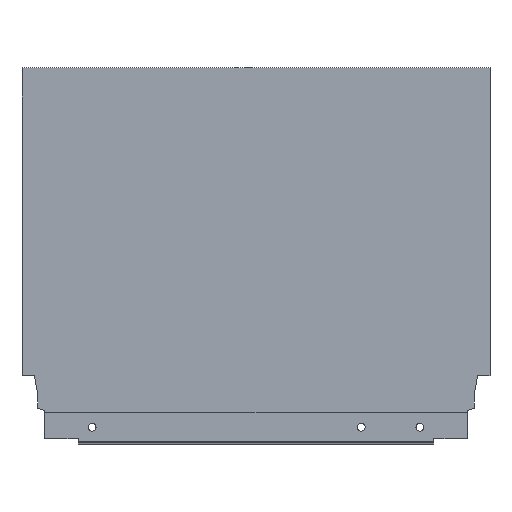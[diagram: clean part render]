
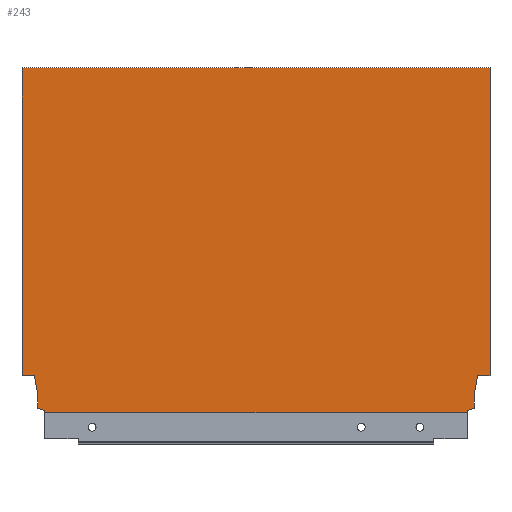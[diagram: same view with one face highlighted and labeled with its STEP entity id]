
A CAD part, top view. The second image highlights one B-rep face of the part: STEP entity #243.
In plain terms, the highlighted planar face has unit normal (0, 0, 1).
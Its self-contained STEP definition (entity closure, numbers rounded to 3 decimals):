
#37 = EDGE_CURVE ( 'NONE', #538, #545, #1068, .T. ) ;
#41 = EDGE_CURVE ( 'NONE', #542, #543, #1072, .T. ) ;
#75 = EDGE_CURVE ( 'NONE', #483, #510, #1017, .T. ) ;
#76 = EDGE_CURVE ( 'NONE', #591, #546, #1015, .T. ) ;
#77 = EDGE_CURVE ( 'NONE', #475, #546, #1012, .T. ) ;
#89 = EDGE_CURVE ( 'NONE', #529, #536, #986, .T. ) ;
#106 = EDGE_CURVE ( 'NONE', #510, #522, #957, .T. ) ;
#115 = EDGE_CURVE ( 'NONE', #554, #529, #939, .T. ) ;
#117 = AXIS2_PLACEMENT_3D ( 'NONE', #410, #409, #900 ) ;
#120 = EDGE_CURVE ( 'NONE', #522, #538, #933, .T. ) ;
#121 = EDGE_CURVE ( 'NONE', #542, #554, #931, .T. ) ;
#135 = EDGE_CURVE ( 'NONE', #545, #543, #914, .T. ) ;
#152 = EDGE_CURVE ( 'NONE', #495, #483, #1510, .T. ) ;
#173 = EDGE_CURVE ( 'NONE', #536, #475, #1494, .T. ) ;
#175 = EDGE_CURVE ( 'NONE', #591, #495, #1483, .T. ) ;
#243 = ADVANCED_FACE ( 'NONE', ( #1274 ), #412, .T. ) ;
#252 = CARTESIAN_POINT ( 'NONE',  ( 0., 21.2, 7.5 ) ) ;
#314 = DIRECTION ( 'NONE',  ( 1., 0., 0. ) ) ;
#320 = CARTESIAN_POINT ( 'NONE',  ( -267., 0., 7.5 ) ) ;
#321 = DIRECTION ( 'NONE',  ( -0.94, -0.342, 0. ) ) ;
#322 = CARTESIAN_POINT ( 'NONE',  ( -8.9, 2.64, 7.5 ) ) ;
#369 = CARTESIAN_POINT ( 'NONE',  ( -7.06, 21.2, 7.5 ) ) ;
#377 = CARTESIAN_POINT ( 'NONE',  ( -267., 196.7, 7.5 ) ) ;
#396 = DIRECTION ( 'NONE',  ( -0.174, -0.985, 0. ) ) ;
#409 = DIRECTION ( 'NONE',  ( 0., 0., 1. ) ) ;
#410 = CARTESIAN_POINT ( 'NONE',  ( -267., 0., 7.5 ) ) ;
#412 = PLANE ( 'NONE',  #117 ) ;
#417 = CARTESIAN_POINT ( 'NONE',  ( -7.06, 21.2, 7.5 ) ) ;
#475 = VERTEX_POINT ( 'NONE', #635 ) ;
#483 = VERTEX_POINT ( 'NONE', #252 ) ;
#495 = VERTEX_POINT ( 'NONE', #555 ) ;
#508 = CARTESIAN_POINT ( 'NONE',  ( 0., 21.2, 7.5 ) ) ;
#509 = DIRECTION ( 'NONE',  ( -1., 0., 0. ) ) ;
#510 = VERTEX_POINT ( 'NONE', #417 ) ;
#515 = CARTESIAN_POINT ( 'NONE',  ( -267., 0., 7.5 ) ) ;
#516 = DIRECTION ( 'NONE',  ( 0., -1., 0. ) ) ;
#521 = CARTESIAN_POINT ( 'NONE',  ( -272., 21.2, 7.5 ) ) ;
#522 = VERTEX_POINT ( 'NONE', #801 ) ;
#524 = DIRECTION ( 'NONE',  ( -1., 0., 0. ) ) ;
#529 = VERTEX_POINT ( 'NONE', #780 ) ;
#536 = VERTEX_POINT ( 'NONE', #799 ) ;
#538 = VERTEX_POINT ( 'NONE', #795 ) ;
#542 = VERTEX_POINT ( 'NONE', #781 ) ;
#543 = VERTEX_POINT ( 'NONE', #771 ) ;
#545 = VERTEX_POINT ( 'NONE', #770 ) ;
#546 = VERTEX_POINT ( 'NONE', #776 ) ;
#554 = VERTEX_POINT ( 'NONE', #790 ) ;
#555 = CARTESIAN_POINT ( 'NONE',  ( 0., 196.7, 7.5 ) ) ;
#559 = CARTESIAN_POINT ( 'NONE',  ( -258.1, 10.765, 7.5 ) ) ;
#563 = DIRECTION ( 'NONE',  ( 0., 1., 0. ) ) ;
#591 = VERTEX_POINT ( 'NONE', #377 ) ;
#599 = DIRECTION ( 'NONE',  ( 1., 0., 0. ) ) ;
#601 = CARTESIAN_POINT ( 'NONE',  ( -259.94, 21.2, 7.5 ) ) ;
#613 = DIRECTION ( 'NONE',  ( -0.174, 0.985, 0. ) ) ;
#615 = CARTESIAN_POINT ( 'NONE',  ( -258.1, 2.64, 7.5 ) ) ;
#616 = DIRECTION ( 'NONE',  ( -0.94, 0.342, 0. ) ) ;
#617 = DIRECTION ( 'NONE',  ( 0., -1., 0. ) ) ;
#618 = CARTESIAN_POINT ( 'NONE',  ( -13.004, 1.146, 7.5 ) ) ;
#622 = CARTESIAN_POINT ( 'NONE',  ( -267., 196.7, 7.5 ) ) ;
#635 = CARTESIAN_POINT ( 'NONE',  ( -259.94, 21.2, 7.5 ) ) ;
#710 = DIRECTION ( 'NONE',  ( 0., -1., 0. ) ) ;
#711 = CARTESIAN_POINT ( 'NONE',  ( 0., 0., 7.5 ) ) ;
#749 = DIRECTION ( 'NONE',  ( 0., 1., 0. ) ) ;
#750 = CARTESIAN_POINT ( 'NONE',  ( -253.996, 1.146, 7.5 ) ) ;
#751 = DIRECTION ( 'NONE',  ( 0., -1., 0. ) ) ;
#757 = CARTESIAN_POINT ( 'NONE',  ( -8.9, 10.765, 7.5 ) ) ;
#770 = CARTESIAN_POINT ( 'NONE',  ( -13.004, 1.146, 7.5 ) ) ;
#771 = CARTESIAN_POINT ( 'NONE',  ( -13.004, 0., 7.5 ) ) ;
#776 = CARTESIAN_POINT ( 'NONE',  ( -267., 21.2, 7.5 ) ) ;
#780 = CARTESIAN_POINT ( 'NONE',  ( -258.1, 2.64, 7.5 ) ) ;
#781 = CARTESIAN_POINT ( 'NONE',  ( -253.996, 0., 7.5 ) ) ;
#790 = CARTESIAN_POINT ( 'NONE',  ( -253.996, 1.146, 7.5 ) ) ;
#795 = CARTESIAN_POINT ( 'NONE',  ( -8.9, 2.64, 7.5 ) ) ;
#799 = CARTESIAN_POINT ( 'NONE',  ( -258.1, 10.765, 7.5 ) ) ;
#801 = CARTESIAN_POINT ( 'NONE',  ( -8.9, 10.765, 7.5 ) ) ;
#900 = DIRECTION ( 'NONE',  ( 1., 0., 0. ) ) ;
#913 = VECTOR ( 'NONE', #617, 1000. ) ;
#914 = LINE ( 'NONE', #618, #913 ) ;
#930 = VECTOR ( 'NONE', #749, 1000. ) ;
#931 = LINE ( 'NONE', #750, #930 ) ;
#932 = VECTOR ( 'NONE', #751, 1000. ) ;
#933 = LINE ( 'NONE', #757, #932 ) ;
#938 = VECTOR ( 'NONE', #616, 1000. ) ;
#939 = LINE ( 'NONE', #615, #938 ) ;
#956 = VECTOR ( 'NONE', #396, 1000. ) ;
#957 = LINE ( 'NONE', #369, #956 ) ;
#985 = VECTOR ( 'NONE', #563, 1000. ) ;
#986 = LINE ( 'NONE', #559, #985 ) ;
#1011 = VECTOR ( 'NONE', #524, 1000. ) ;
#1012 = LINE ( 'NONE', #521, #1011 ) ;
#1013 = VECTOR ( 'NONE', #516, 1000. ) ;
#1015 = LINE ( 'NONE', #515, #1013 ) ;
#1016 = VECTOR ( 'NONE', #509, 1000. ) ;
#1017 = LINE ( 'NONE', #508, #1016 ) ;
#1062 = VECTOR ( 'NONE', #314, 1000. ) ;
#1067 = VECTOR ( 'NONE', #321, 1000. ) ;
#1068 = LINE ( 'NONE', #322, #1067 ) ;
#1072 = LINE ( 'NONE', #320, #1062 ) ;
#1103 = ORIENTED_EDGE ( 'NONE', *, *, #120, .F. ) ;
#1212 = ORIENTED_EDGE ( 'NONE', *, *, #175, .F. ) ;
#1213 = ORIENTED_EDGE ( 'NONE', *, *, #152, .F. ) ;
#1214 = ORIENTED_EDGE ( 'NONE', *, *, #75, .F. ) ;
#1215 = ORIENTED_EDGE ( 'NONE', *, *, #106, .F. ) ;
#1216 = ORIENTED_EDGE ( 'NONE', *, *, #37, .F. ) ;
#1217 = ORIENTED_EDGE ( 'NONE', *, *, #135, .F. ) ;
#1218 = ORIENTED_EDGE ( 'NONE', *, *, #41, .T. ) ;
#1219 = ORIENTED_EDGE ( 'NONE', *, *, #121, .F. ) ;
#1274 = FACE_OUTER_BOUND ( 'NONE', #1306, .T. ) ;
#1306 = EDGE_LOOP ( 'NONE', ( #1461, #1460, #1457, #1463, #1465, #1219, #1218, #1217, #1216, #1103, #1215, #1214, #1213, #1212 ) ) ;
#1447 = VECTOR ( 'NONE', #599, 1000. ) ;
#1457 = ORIENTED_EDGE ( 'NONE', *, *, #173, .F. ) ;
#1460 = ORIENTED_EDGE ( 'NONE', *, *, #77, .F. ) ;
#1461 = ORIENTED_EDGE ( 'NONE', *, *, #76, .T. ) ;
#1463 = ORIENTED_EDGE ( 'NONE', *, *, #89, .F. ) ;
#1465 = ORIENTED_EDGE ( 'NONE', *, *, #115, .F. ) ;
#1483 = LINE ( 'NONE', #622, #1447 ) ;
#1494 = LINE ( 'NONE', #601, #1504 ) ;
#1504 = VECTOR ( 'NONE', #613, 1000. ) ;
#1509 = VECTOR ( 'NONE', #710, 1000. ) ;
#1510 = LINE ( 'NONE', #711, #1509 ) ;
